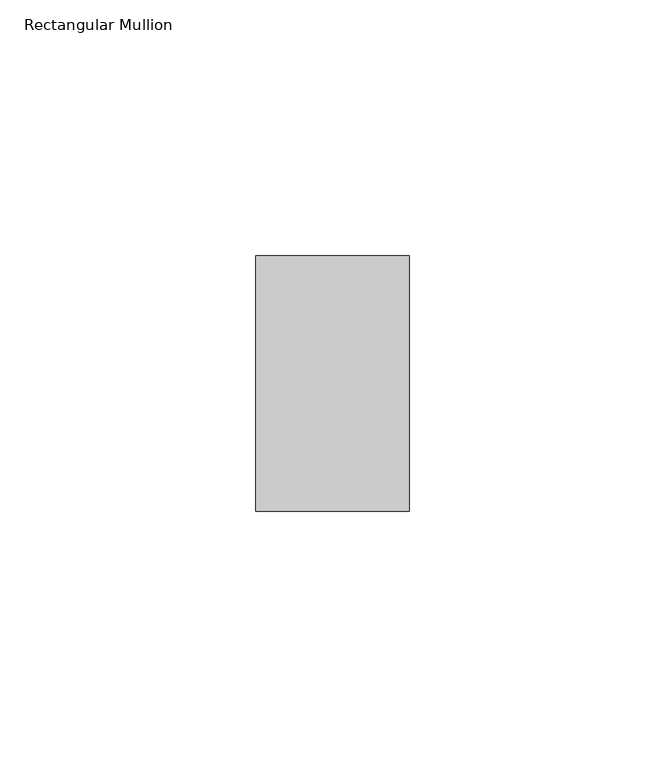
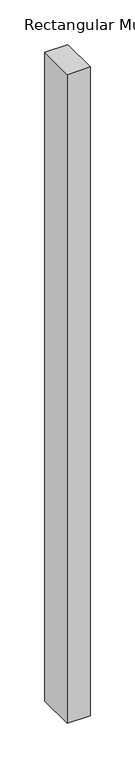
"""IFC4 building model written with IfcOpenShell, lengths in millimetres: member geometry, Rectangular Mullion : ARQ_REJA_MULL_50x30mm."""

from ifc_helpers import new_model, si_unit, frame, origin, place, context, project, spatial, polyline, outline, extrude, source, transform, mapped, element, save


def rectangular_mullion_01378f82(model_context):
    return source(origin(), model_context, "Body", "SweptSolid", [
        extrude(outline(polyline([(0.0, 25.0), (0.0, -25.0), (-30.0, -25.0), (-30.0, 25.0), (0.0, 25.0)])), frame((0.0, 0.0, -885.7513156), z_axis=(0.0, 0.0, 1.0), x_axis=(1.0, 0.0, 0.0)), (0.0, 0.0, 1.0), 885.7513156),
    ])


if __name__ == "__main__":
    model = new_model("IFC4")
    model_context = context("Model", 3, world=origin())
    ifc_project = project(units=[si_unit("LENGTHUNIT", "METRE", prefix="MILLI")], contexts=[model_context])
    site = spatial("IfcSite", under=ifc_project)
    building = spatial("IfcBuilding", under=site)
    placement = place(None, origin())
    rectangular_mullion_shape = rectangular_mullion_01378f82(model_context)
    element("IfcMember", 1, ObjectType="Rectangular Mullion : ARQ_REJA_MULL_50x30mm", at=placement, inside=building, context=model_context, shape_type="MappedRepresentation", body=[
        mapped(rectangular_mullion_shape, transform((0.0, 0.0, 0.0), x_axis=(1.0, 0.0, 0.0), y_axis=(0.0, 1.0, 0.0), z_axis=(0.0, 0.0, 1.0))),
    ])
    save(model, "model.ifc")
